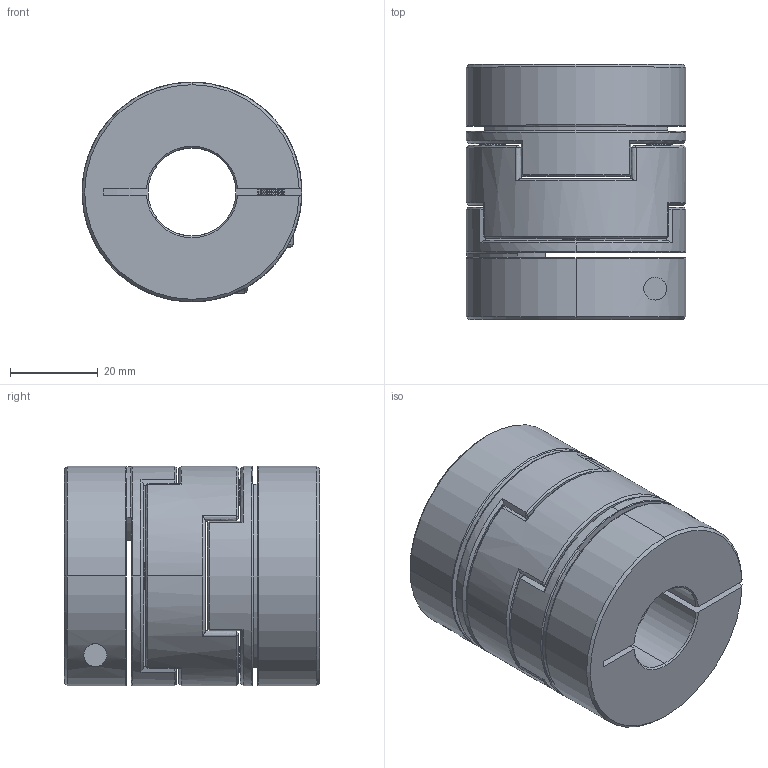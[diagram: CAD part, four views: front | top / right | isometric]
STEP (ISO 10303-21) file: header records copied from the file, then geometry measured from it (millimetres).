
FILE_DESCRIPTION (( 'STEP AP203' ), '1' );
FILE_NAME ('LZ-B-D50L58-20-24.STEP', '2021-10-29T08:16:32', ( '' ), ( '' ), 'SwSTEP 2.0', 'SolidWorks 2018', '' );
FILE_SCHEMA (( 'CONFIG_CONTROL_DESIGN' ));
Length unit declared in the file: millimetre
Products named in the file (1): LZ-B-D50L58-20-24
Bounding box: 50 x 58 x 50 mm (x, y, z)
Volume: 84416.4 mm3; surface area: 29462.9 mm2
Topology: 1 solids, 27 shells, 561 faces, 1370 edges, 814 vertices
Faces by surface type: cone 252, cylinder 160, plane 91, bspline 54, torus 4
Entity records: 17482 total; most frequent: CARTESIAN_POINT 4365, DIRECTION 2786, ORIENTED_EDGE 2732, EDGE_CURVE 1366, AXIS2_PLACEMENT_3D 1124, VERTEX_POINT 814, CIRCLE 616, EDGE_LOOP 594
